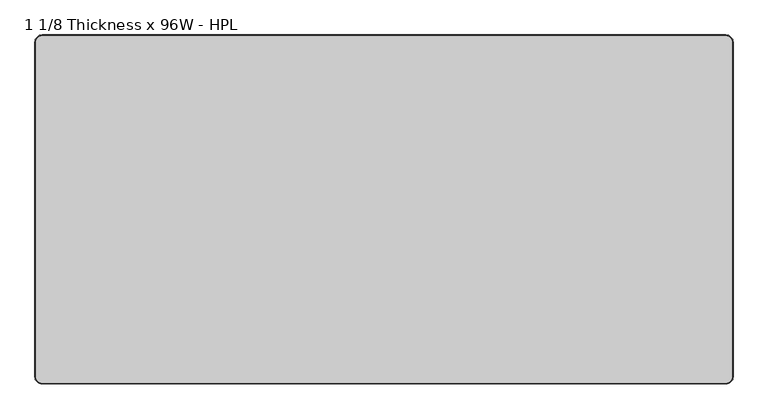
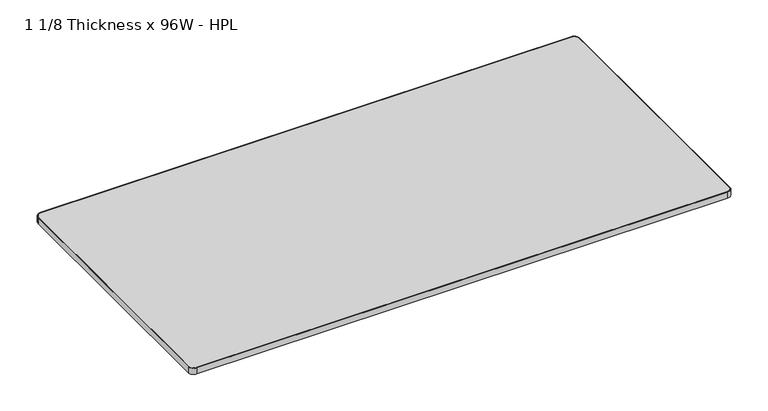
"""IFC4 building model written with IfcOpenShell, lengths in millimetres: furniture geometry, Steelcase - Groupwork - Table - Conference Table Top - Rectangular : 1 1/8 Thickness x 96W - HPL."""

from ifc_helpers import new_model, si_unit, point, frame, frame_2d, origin, place, context, project, spatial, polyline, circle_curve, trimmed, segment, composite_curve, outline, extrude, source, transform, mapped, element, save


def furniture_1_1_8_thickness_x_96w_hpl_c60ebc48(model_context):
    return source(origin(), model_context, "Body", "SweptSolid", [
        extrude(outline(composite_curve([segment(polyline([(-1221.74, 606.6), (1164.94, 606.6)]), True, "CONTINUOUS"), segment(trimmed(circle_curve(frame_2d((1164.94, 583.74)), 22.86), [point((1164.94, 606.6))], [point((1187.8, 583.74))], False, "CARTESIAN"), True, "CONTINUOUS"), segment(polyline([(1187.8, 583.74), (1187.8, -583.74)]), True, "CONTINUOUS"), segment(trimmed(circle_curve(frame_2d((1164.94, -583.74)), 22.86), [point((1187.8, -583.74))], [point((1164.94, -606.6))], False, "CARTESIAN"), True, "CONTINUOUS"), segment(polyline([(1164.94, -606.6), (-1221.74, -606.6)]), True, "CONTINUOUS"), segment(trimmed(circle_curve(frame_2d((-1221.74, -583.74)), 22.86), [point((-1221.74, -606.6))], [point((-1244.6, -583.74))], False, "CARTESIAN"), True, "CONTINUOUS"), segment(polyline([(-1244.6, -583.74), (-1244.6, 583.74)]), True, "CONTINUOUS"), segment(trimmed(circle_curve(frame_2d((-1221.74, 583.74)), 22.86), [point((-1244.6, 583.74))], [point((-1221.74, 606.6))], False, "CARTESIAN"), True, "CONTINUOUS")], self_intersect=False)), frame((0.0, 0.0, 694.944), z_axis=(0.0, 0.0, 1.0), x_axis=(1.0, 0.0, 0.0)), (0.0, 0.0, 1.0), 28.956),
        extrude(outline(composite_curve([segment(trimmed(circle_curve(frame_2d((1165.3385373, 584.1385373)), 25.4614627), [point((1165.3385373, 609.6))], [point((1190.8, 584.1385373))], False, "CARTESIAN"), True, "CONTINUOUS"), segment(polyline([(1190.8, 584.1385373), (1190.8, -584.2211297)]), True, "CONTINUOUS"), segment(trimmed(circle_curve(frame_2d((1165.4211297, -584.2211297)), 25.3788703), [point((1190.8, -584.2211297))], [point((1165.4211297, -609.6))], False, "CARTESIAN"), True, "CONTINUOUS"), segment(polyline([(1165.4211297, -609.6), (-1222.2, -609.6)]), True, "CONTINUOUS"), segment(trimmed(circle_curve(frame_2d((-1222.2, -584.2)), 25.4), [point((-1222.2, -609.6))], [point((-1247.6, -584.2))], False, "CARTESIAN"), True, "CONTINUOUS"), segment(polyline([(-1247.6, -584.2), (-1247.6, 584.2)]), True, "CONTINUOUS"), segment(trimmed(circle_curve(frame_2d((-1222.2, 584.2)), 25.4), [point((-1247.6, 584.2))], [point((-1222.2, 609.6))], False, "CARTESIAN"), True, "CONTINUOUS"), segment(polyline([(-1222.2, 609.6), (1165.3385373, 609.6)]), True, "CONTINUOUS")], self_intersect=False), holes=[composite_curve([segment(polyline([(1165.0064662, 606.6), (-1221.74, 606.6)]), True, "CONTINUOUS"), segment(trimmed(circle_curve(frame_2d((-1221.74, 583.74)), 22.86), [point((-1221.74, 606.6))], [point((-1244.6, 583.74))], True, "CARTESIAN"), True, "CONTINUOUS"), segment(polyline([(-1244.6, 583.74), (-1244.6, -583.74)]), True, "CONTINUOUS"), segment(trimmed(circle_curve(frame_2d((-1221.74, -583.74)), 22.86), [point((-1244.6, -583.74))], [point((-1221.74, -606.6))], True, "CARTESIAN"), True, "CONTINUOUS"), segment(polyline([(-1221.74, -606.6), (1164.773488, -606.6)]), True, "CONTINUOUS"), segment(trimmed(circle_curve(frame_2d((1164.773488, -583.573488)), 23.026512), [point((1164.773488, -606.6))], [point((1187.8, -583.573488))], True, "CARTESIAN"), True, "CONTINUOUS"), segment(polyline([(1187.8, -583.573488), (1187.8, 583.8064662)]), True, "CONTINUOUS"), segment(trimmed(circle_curve(frame_2d((1165.0064662, 583.8064662)), 22.7935338), [point((1187.8, 583.8064662))], [point((1165.0064662, 606.6))], True, "CARTESIAN"), True, "CONTINUOUS")], self_intersect=False)]), frame((0.0, 0.0, 694.944), z_axis=(0.0, 0.0, 1.0), x_axis=(1.0, 0.0, 0.0)), (0.0, 0.0, 1.0), 28.956),
    ])


if __name__ == "__main__":
    model = new_model("IFC4")
    model_context = context("Model", 3, world=origin())
    ifc_project = project(units=[si_unit("LENGTHUNIT", "METRE", prefix="MILLI")], contexts=[model_context])
    site = spatial("IfcSite", under=ifc_project)
    building = spatial("IfcBuilding", under=site)
    placement = place(None, origin())
    furniture_1_1_8_thickness_x_96w_hpl_shape = furniture_1_1_8_thickness_x_96w_hpl_c60ebc48(model_context)
    element("IfcFurniture", 1, ObjectType="Steelcase - Groupwork - Table - Conference Table Top - Rectangular : 1 1/8 Thickness x 96W - HPL", at=placement, inside=building, context=model_context, shape_type="MappedRepresentation", body=[
        mapped(furniture_1_1_8_thickness_x_96w_hpl_shape, transform((0.0, 0.0, 0.0), x_axis=(1.0, 0.0, 0.0), y_axis=(0.0, 1.0, 0.0), z_axis=(0.0, 0.0, 1.0))),
    ])
    save(model, "model.ifc")
